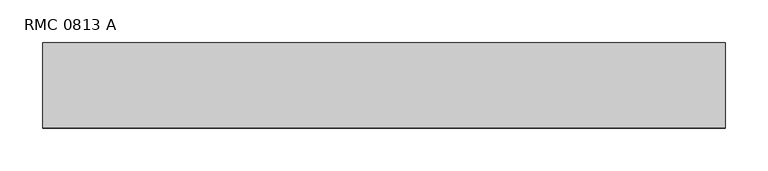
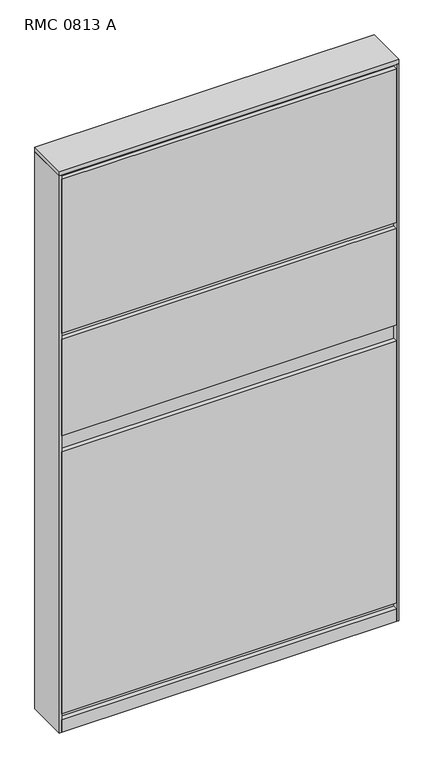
"""IFC4 building model written with IfcOpenShell, lengths in millimetres: furniture geometry, Mobiliário_MobiliáriodeEscritório_LinhaReasons_PainelCego1400mm-Melamina_Marelli : RMC 0813 A."""

from ifc_helpers import new_model, si_unit, frame, origin, origin_with_axes, place, context, project, spatial, polyline, outline, extrude, source, transform, mapped, element, save


def rmc_0813_a_a7bc62cc(model_context):
    return source(origin(), model_context, "Body", "SweptSolid", [
        extrude(outline(polyline([(795.0, 100.0), (800.0, 100.0), (800.0, 0.0), (795.0, 0.0), (795.0, 100.0)])), origin_with_axes(), (0.0, 0.0, 1.0), 1389.0),
        extrude(outline(polyline([(800.0, 100.0), (800.0, 0.0), (0.0, 0.0), (0.0, 100.0), (800.0, 100.0)])), frame((0.0, 0.0, 1389.0), z_axis=(0.0, 0.0, 1.0), x_axis=(1.0, 0.0, 0.0)), (0.0, 0.0, 1.0), 11.0),
        extrude(outline(polyline([(5.0, 11.0), (5.0, 89.0), (795.0, 89.0), (795.0, 11.0), (5.0, 11.0)])), origin_with_axes(), (0.0, 0.0, 1.0), 1389.0),
        extrude(outline(polyline([(795.0, 100.0), (795.0, 89.0), (5.0, 89.0), (5.0, 100.0), (795.0, 100.0)])), origin_with_axes(), (0.0, 0.0, 1.0), 32.0),
        extrude(outline(polyline([(795.0, 11.0), (795.0, 0.0), (5.0, 0.0), (5.0, 11.0), (795.0, 11.0)])), origin_with_axes(), (0.0, 0.0, 1.0), 32.0),
        extrude(outline(polyline([(795.0, 11.0), (795.0, 0.0), (5.0, 0.0), (5.0, 11.0), (795.0, 11.0)])), frame((0.0, 0.0, 47.0), z_axis=(0.0, 0.0, 1.0), x_axis=(1.0, 0.0, 0.0)), (0.0, 0.0, 1.0), 653.0),
        extrude(outline(polyline([(795.0, 11.0), (795.0, 0.0), (5.0, 0.0), (5.0, 11.0), (795.0, 11.0)])), frame((0.0, 0.0, 740.0), z_axis=(0.0, 0.0, 1.0), x_axis=(1.0, 0.0, 0.0)), (0.0, 0.0, 1.0), 240.0),
        extrude(outline(polyline([(795.0, 100.0), (795.0, 89.0), (5.0, 89.0), (5.0, 100.0), (795.0, 100.0)])), frame((0.0, 0.0, 47.0), z_axis=(0.0, 0.0, 1.0), x_axis=(1.0, 0.0, 0.0)), (0.0, 0.0, 1.0), 653.0),
        extrude(outline(polyline([(795.0, 100.0), (795.0, 89.0), (5.0, 89.0), (5.0, 100.0), (795.0, 100.0)])), frame((0.0, 0.0, 715.0), z_axis=(0.0, 0.0, 1.0), x_axis=(1.0, 0.0, 0.0)), (0.0, 0.0, 1.0), 265.0),
        extrude(outline(polyline([(0.0, 100.0), (5.0, 100.0), (5.0, 0.0), (0.0, 0.0), (0.0, 100.0)])), origin_with_axes(), (0.0, 0.0, 1.0), 1389.0),
        extrude(outline(polyline([(795.0, 11.0), (795.0, 0.0), (5.0, 0.0), (5.0, 11.0), (795.0, 11.0)])), frame((0.0, 0.0, 995.0), z_axis=(0.0, 0.0, 1.0), x_axis=(1.0, 0.0, 0.0)), (0.0, 0.0, 1.0), 383.5),
        extrude(outline(polyline([(795.0, 100.0), (795.0, 89.0), (5.0, 89.0), (5.0, 100.0), (795.0, 100.0)])), frame((0.0, 0.0, 995.0), z_axis=(0.0, 0.0, 1.0), x_axis=(1.0, 0.0, 0.0)), (0.0, 0.0, 1.0), 383.5),
    ])


if __name__ == "__main__":
    model = new_model("IFC4")
    model_context = context("Model", 3, world=origin())
    ifc_project = project(units=[si_unit("LENGTHUNIT", "METRE", prefix="MILLI")], contexts=[model_context])
    site = spatial("IfcSite", under=ifc_project)
    building = spatial("IfcBuilding", under=site)
    placement = place(None, origin())
    rmc_0813_a_shape = rmc_0813_a_a7bc62cc(model_context)
    element("IfcFurniture", 1, ObjectType="Mobiliário_MobiliáriodeEscritório_LinhaReasons_PainelCego1400mm-Melamina_Marelli : RMC 0813 A", at=placement, inside=building, context=model_context, shape_type="MappedRepresentation", body=[
        mapped(rmc_0813_a_shape, transform((0.0, 0.0, 0.0), x_axis=(1.0, 0.0, 0.0), y_axis=(0.0, 1.0, 0.0), z_axis=(0.0, 0.0, 1.0))),
    ])
    save(model, "model.ifc")
